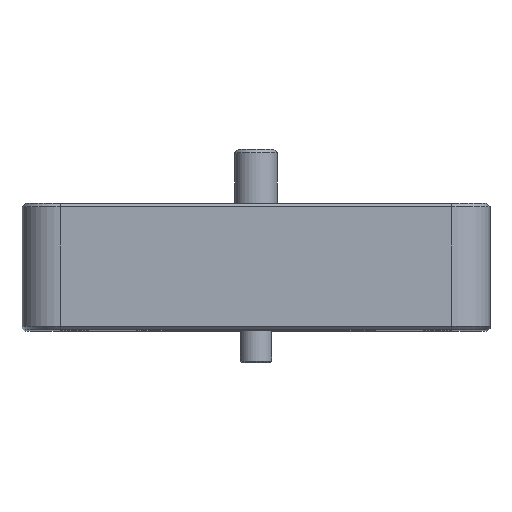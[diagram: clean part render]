
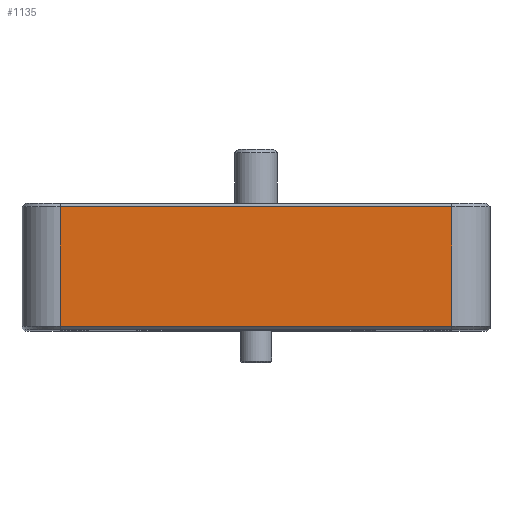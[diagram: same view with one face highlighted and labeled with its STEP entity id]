
A CAD part, top view. The second image highlights one B-rep face of the part: STEP entity #1135.
In plain terms, the highlighted planar face has unit normal (0, 0, 1).
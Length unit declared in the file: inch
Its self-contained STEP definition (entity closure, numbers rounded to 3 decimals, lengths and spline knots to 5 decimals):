
#1096=CARTESIAN_POINT('',(41.81247,6.61018,-22.84582));
#1097=DIRECTION('',(0.0,0.0,-1.0));
#1098=DIRECTION('',(0.0,1.0,0.0));
#1099=AXIS2_PLACEMENT_3D('',#1096,#1097,#1098);
#1100=PLANE('',#1099);
#1101=CARTESIAN_POINT('',(44.32747,6.63018,-22.84582));
#1102=VERTEX_POINT('',#1101);
#1103=CARTESIAN_POINT('',(44.32747,7.33018,-22.84582));
#1104=VERTEX_POINT('',#1103);
#1105=CARTESIAN_POINT('',(44.32747,6.63018,-22.84582));
#1106=DIRECTION('',(0.0,1.0,0.0));
#1107=VECTOR('',#1106,0.7);
#1108=LINE('',#1105,#1107);
#1109=EDGE_CURVE('',#1102,#1104,#1108,.T.);
#1110=ORIENTED_EDGE('',*,*,#1109,.T.);
#1111=CARTESIAN_POINT('',(42.03747,7.33018,-22.84582));
#1112=VERTEX_POINT('',#1111);
#1113=CARTESIAN_POINT('',(44.32747,7.33018,-22.84582));
#1114=DIRECTION('',(-1.0,0.0,0.0));
#1115=VECTOR('',#1114,2.29);
#1116=LINE('',#1113,#1115);
#1117=EDGE_CURVE('',#1104,#1112,#1116,.T.);
#1118=ORIENTED_EDGE('',*,*,#1117,.T.);
#1119=CARTESIAN_POINT('',(42.03747,6.63018,-22.84582));
#1120=VERTEX_POINT('',#1119);
#1121=CARTESIAN_POINT('',(42.03747,6.63018,-22.84582));
#1122=DIRECTION('',(0.0,1.0,0.0));
#1123=VECTOR('',#1122,0.7);
#1124=LINE('',#1121,#1123);
#1125=EDGE_CURVE('',#1112,#1120,#1124,.F.);
#1126=ORIENTED_EDGE('',*,*,#1125,.T.);
#1127=CARTESIAN_POINT('',(42.03747,6.63018,-22.84582));
#1128=DIRECTION('',(1.0,0.0,0.0));
#1129=VECTOR('',#1128,2.29);
#1130=LINE('',#1127,#1129);
#1131=EDGE_CURVE('',#1120,#1102,#1130,.T.);
#1132=ORIENTED_EDGE('',*,*,#1131,.T.);
#1133=EDGE_LOOP('',(#1110,#1118,#1126,#1132));
#1134=FACE_OUTER_BOUND('',#1133,.T.);
#1135=ADVANCED_FACE('',(#1134),#1100,.F.);
